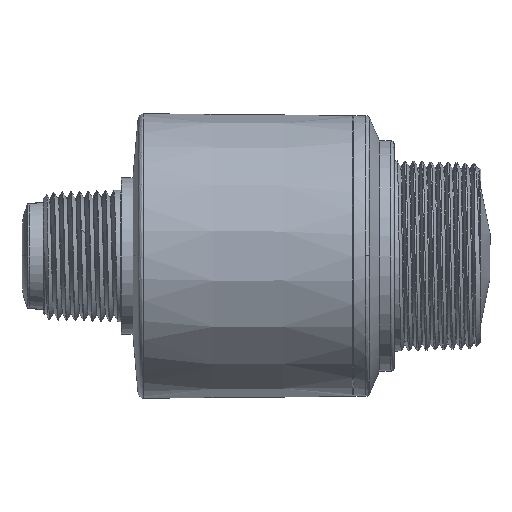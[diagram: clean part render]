
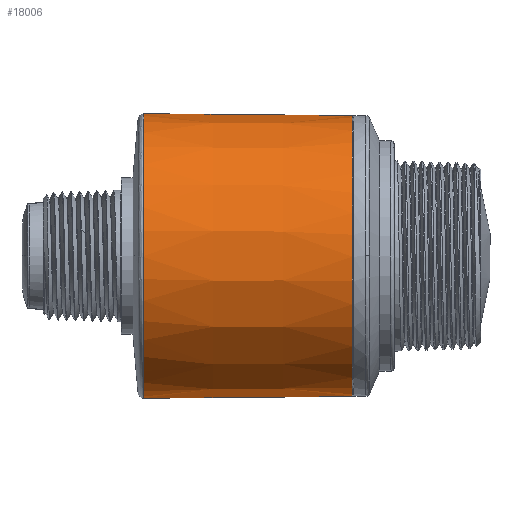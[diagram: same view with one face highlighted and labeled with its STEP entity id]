
A CAD part, left-side view. The second image highlights one B-rep face of the part: STEP entity #18006.
In plain terms, the highlighted conical face has half-angle 0.5 degrees and reference radius 36.468 mm.
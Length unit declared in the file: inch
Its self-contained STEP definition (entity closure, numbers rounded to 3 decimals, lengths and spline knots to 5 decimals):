
#12 = CARTESIAN_POINT ( 'NONE',  ( -0.0935, -0.13278, -1.43575 ) ) ;
#210 = VERTEX_POINT ( 'NONE', #17975 ) ;
#407 = VECTOR ( 'NONE', #857, 39.37008 ) ;
#857 = DIRECTION ( 'NONE',  ( 0., 1., 0.009 ) ) ;
#1405 = EDGE_CURVE ( 'NONE', #6025, #4852, #19424, .T. ) ;
#1531 = DIRECTION ( 'NONE',  ( 0., 1., 0. ) ) ;
#1541 = VERTEX_POINT ( 'NONE', #15494 ) ;
#1952 = CARTESIAN_POINT ( 'NONE',  ( -1.28694, -0.1328, -0.64334 ) ) ;
#2439 = DIRECTION ( 'NONE',  ( 0., -1., 0. ) ) ;
#3523 = EDGE_CURVE ( 'NONE', #1541, #24900, #21559, .T. ) ;
#3568 = ORIENTED_EDGE ( 'NONE', *, *, #12758, .F. ) ;
#3965 = CARTESIAN_POINT ( 'NONE',  ( -1.13756, -0.1328, -0.88095 ) ) ;
#4852 = VERTEX_POINT ( 'NONE', #15974 ) ;
#5507 = CARTESIAN_POINT ( 'NONE',  ( 0., -2.23629, 0. ) ) ;
#5642 = AXIS2_PLACEMENT_3D ( 'NONE', #14410, #2439, #16372 ) ;
#5981 = CARTESIAN_POINT ( 'NONE',  ( -0.9449, -0.13279, -1.08503 ) ) ;
#6025 = VERTEX_POINT ( 'NONE', #20414 ) ;
#6351 = CARTESIAN_POINT ( 'NONE',  ( -1.43575, -0.13281, 0. ) ) ;
#6619 = CARTESIAN_POINT ( 'NONE',  ( 0., -0.13281, 1.43575 ) ) ;
#7048 = CONICAL_SURFACE ( 'NONE', #13221, 1.43575, 0.009 ) ;
#7924 = DIRECTION ( 'NONE',  ( 1., 0., 0. ) ) ;
#8003 = CARTESIAN_POINT ( 'NONE',  ( -0.71628, -0.13279, -1.24782 ) ) ;
#9400 = DIRECTION ( 'NONE',  ( 0., 1., 0. ) ) ;
#9665 = CARTESIAN_POINT ( 'NONE',  ( 0., -0.13277, -1.43575 ) ) ;
#9832 = CARTESIAN_POINT ( 'NONE',  ( -1.43575, -0.13281, -0.00372 ) ) ;
#9924 = CARTESIAN_POINT ( 'NONE',  ( -1.4357, -0.13281, -0.01117 ) ) ;
#10018 = CARTESIAN_POINT ( 'NONE',  ( -0.4604, -0.13278, -1.36314 ) ) ;
#10496 = EDGE_CURVE ( 'NONE', #24900, #16655, #20810, .T. ) ;
#10693 =( BOUNDED_CURVE ( )  B_SPLINE_CURVE ( 3, ( #11739, #9832, #11833, #25598 ),
 .UNSPECIFIED., .F., .T. ) 
 B_SPLINE_CURVE_WITH_KNOTS ( ( 4, 4 ),
 ( 0., 0.00343 ),
 .UNSPECIFIED. ) 
 CURVE ( )  GEOMETRIC_REPRESENTATION_ITEM ( )  RATIONAL_B_SPLINE_CURVE ( ( 1., 1., 1., 1. ) ) 
 REPRESENTATION_ITEM ( '' )  );
#11739 = CARTESIAN_POINT ( 'NONE',  ( -1.43575, -0.13281, 0. ) ) ;
#11833 = CARTESIAN_POINT ( 'NONE',  ( -1.43573, -0.13281, -0.00745 ) ) ;
#11918 = CARTESIAN_POINT ( 'NONE',  ( -1.42509, -0.13281, -0.1981 ) ) ;
#12008 = CARTESIAN_POINT ( 'NONE',  ( -0.18701, -0.13278, -1.42658 ) ) ;
#12690 = CIRCLE ( 'NONE', #20005, 1.41739 ) ;
#12758 = EDGE_CURVE ( 'NONE', #6025, #16478, #19524, .T. ) ;
#12828 = CARTESIAN_POINT ( 'NONE',  ( 0., -0.13281, 1.43575 ) ) ;
#12921 = ORIENTED_EDGE ( 'NONE', *, *, #1405, .T. ) ;
#13018 = DIRECTION ( 'NONE',  ( 0., 1., -0.009 ) ) ;
#13221 = AXIS2_PLACEMENT_3D ( 'NONE', #17277, #9400, #13407 ) ;
#13407 = DIRECTION ( 'NONE',  ( 0., 0., 1. ) ) ;
#13485 = CARTESIAN_POINT ( 'NONE',  ( 0., -2.23629, 0. ) ) ;
#13631 = ORIENTED_EDGE ( 'NONE', *, *, #16410, .T. ) ;
#13672 = B_SPLINE_CURVE_WITH_KNOTS ( 'NONE', 3,
 ( #9924, #21778, #11918, #25692, #13916, #1952, #15894, #3965, #17884, #5981, #19867, #8003, #21859, #10018, #23828, #12008, #12, #14009 ),
 .UNSPECIFIED., .F., .F.,
 ( 4, 2, 2, 2, 2, 2, 2, 2, 4 ),
 ( 0.00343, 0.08949, 0.17556, 0.26163, 0.34769, 0.43376, 0.51982, 0.60589, 0.69195 ),
 .UNSPECIFIED. ) ;
#13916 = CARTESIAN_POINT ( 'NONE',  ( -1.35952, -0.1328, -0.47099 ) ) ;
#13943 = EDGE_CURVE ( 'NONE', #210, #16478, #13672, .T. ) ;
#14009 = CARTESIAN_POINT ( 'NONE',  ( 0., -0.13277, -1.43575 ) ) ;
#14410 = CARTESIAN_POINT ( 'NONE',  ( 0., -0.13281, 0. ) ) ;
#14654 = ORIENTED_EDGE ( 'NONE', *, *, #10496, .T. ) ;
#15460 = DIRECTION ( 'NONE',  ( 1., 0., 0. ) ) ;
#15494 = CARTESIAN_POINT ( 'NONE',  ( 0., -2.23629, 1.41739 ) ) ;
#15894 = CARTESIAN_POINT ( 'NONE',  ( -1.24221, -0.1328, -0.72596 ) ) ;
#15974 = CARTESIAN_POINT ( 'NONE',  ( -1.41737, -2.23629, -0.0074 ) ) ;
#16117 = ORIENTED_EDGE ( 'NONE', *, *, #3523, .T. ) ;
#16372 = DIRECTION ( 'NONE',  ( 1., 0., 0. ) ) ;
#16410 = EDGE_CURVE ( 'NONE', #4852, #1541, #12690, .T. ) ;
#16478 = VERTEX_POINT ( 'NONE', #9665 ) ;
#16655 = VERTEX_POINT ( 'NONE', #6351 ) ;
#16992 = CARTESIAN_POINT ( 'NONE',  ( 0., -0.13281, -1.43575 ) ) ;
#17277 = CARTESIAN_POINT ( 'NONE',  ( 0., -0.13281, 0. ) ) ;
#17884 = CARTESIAN_POINT ( 'NONE',  ( -1.07764, -0.1328, -0.95331 ) ) ;
#17975 = CARTESIAN_POINT ( 'NONE',  ( -1.4357, -0.13281, -0.01117 ) ) ;
#18006 = ADVANCED_FACE ( 'NONE', ( #18245 ), #7048, .T. ) ;
#18245 = FACE_OUTER_BOUND ( 'NONE', #21419, .T. ) ;
#18915 = VECTOR ( 'NONE', #13018, 39.37008 ) ;
#19379 = AXIS2_PLACEMENT_3D ( 'NONE', #5507, #19556, #7924 ) ;
#19424 = CIRCLE ( 'NONE', #19379, 1.41739 ) ;
#19524 = LINE ( 'NONE', #16992, #18915 ) ;
#19556 = DIRECTION ( 'NONE',  ( 0., 1., 0. ) ) ;
#19867 = CARTESIAN_POINT ( 'NONE',  ( -0.87207, -0.13279, -1.14438 ) ) ;
#20005 = AXIS2_PLACEMENT_3D ( 'NONE', #13485, #1531, #15460 ) ;
#20414 = CARTESIAN_POINT ( 'NONE',  ( 0., -2.23629, -1.41739 ) ) ;
#20810 = CIRCLE ( 'NONE', #5642, 1.43575 ) ;
#21337 = EDGE_CURVE ( 'NONE', #16655, #210, #10693, .T. ) ;
#21419 = EDGE_LOOP ( 'NONE', ( #3568, #12921, #13631, #16117, #14654, #21727, #21639 ) ) ;
#21559 = LINE ( 'NONE', #12828, #407 ) ;
#21639 = ORIENTED_EDGE ( 'NONE', *, *, #13943, .T. ) ;
#21727 = ORIENTED_EDGE ( 'NONE', *, *, #21337, .T. ) ;
#21778 = CARTESIAN_POINT ( 'NONE',  ( -1.43498, -0.13281, -0.10467 ) ) ;
#21859 = CARTESIAN_POINT ( 'NONE',  ( -0.63331, -0.13279, -1.29191 ) ) ;
#23828 = CARTESIAN_POINT ( 'NONE',  ( -0.37046, -0.13278, -1.39028 ) ) ;
#24900 = VERTEX_POINT ( 'NONE', #6619 ) ;
#25598 = CARTESIAN_POINT ( 'NONE',  ( -1.4357, -0.13281, -0.01117 ) ) ;
#25692 = CARTESIAN_POINT ( 'NONE',  ( -1.38735, -0.13281, -0.38126 ) ) ;
